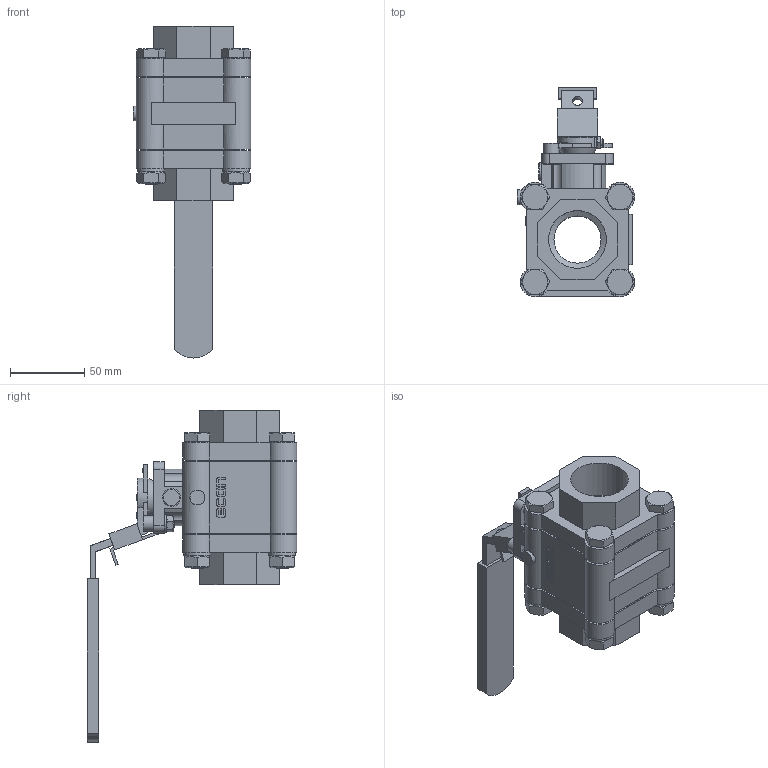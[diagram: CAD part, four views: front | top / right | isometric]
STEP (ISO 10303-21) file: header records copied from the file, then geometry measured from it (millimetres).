
FILE_DESCRIPTION(/* description */ ('Eriks item no: 13278901'),/* implementation_level */ '2;1');
FILE_NAME(/* name */ 'L:\DATA\ENG\Inventor\Econ 3D modellen\kogelkranen\7442\Rubens Versie\7442-DN32-FB.stp',/* time_stamp */ '2023-06-08T07:43:35+02:00',/* author */ ('roger.thijssen'),/* organization */ (''),/* preprocessor_version */ 'ST-DEVELOPER v18',/* originating_system */ 'Autodesk Inventor 2020',/* authorisation */ '');
FILE_SCHEMA (('CONFIG_CONTROL_DESIGN'));
Length unit declared in the file: millimetre
Products named in the file (1): Ball valve, 7442 - 1.1/4" - FB, (TF4103)
Bounding box: 79.17 x 141.61 x 224 mm (x, y, z)
Volume: 456331.2 mm3; surface area: 105933.2 mm2
Topology: 1 solids, 1 shells, 664 faces, 1775 edges, 1142 vertices
Faces by surface type: plane 429, cylinder 139, cone 64, bspline 30, sphere 1, torus 1
Full cylindrical faces by diameter (mm): 5 x2, 6 x1, 6.5 x2, 7 x1, 8.566 x1, 10 x5, 10.5 x1, 11 x12, 12 x1, 15.6 x4, 30 x1, 31.8 x2, 32 x1, 35 x1, 38.952 x2, 69 x2
Entity records: 21330 total; most frequent: CARTESIAN_POINT 4622, ORIENTED_EDGE 3548, DIRECTION 3308, EDGE_CURVE 1774, VERTEX_POINT 1142, AXIS2_PLACEMENT_3D 1123, LINE 1062, VECTOR 1062
